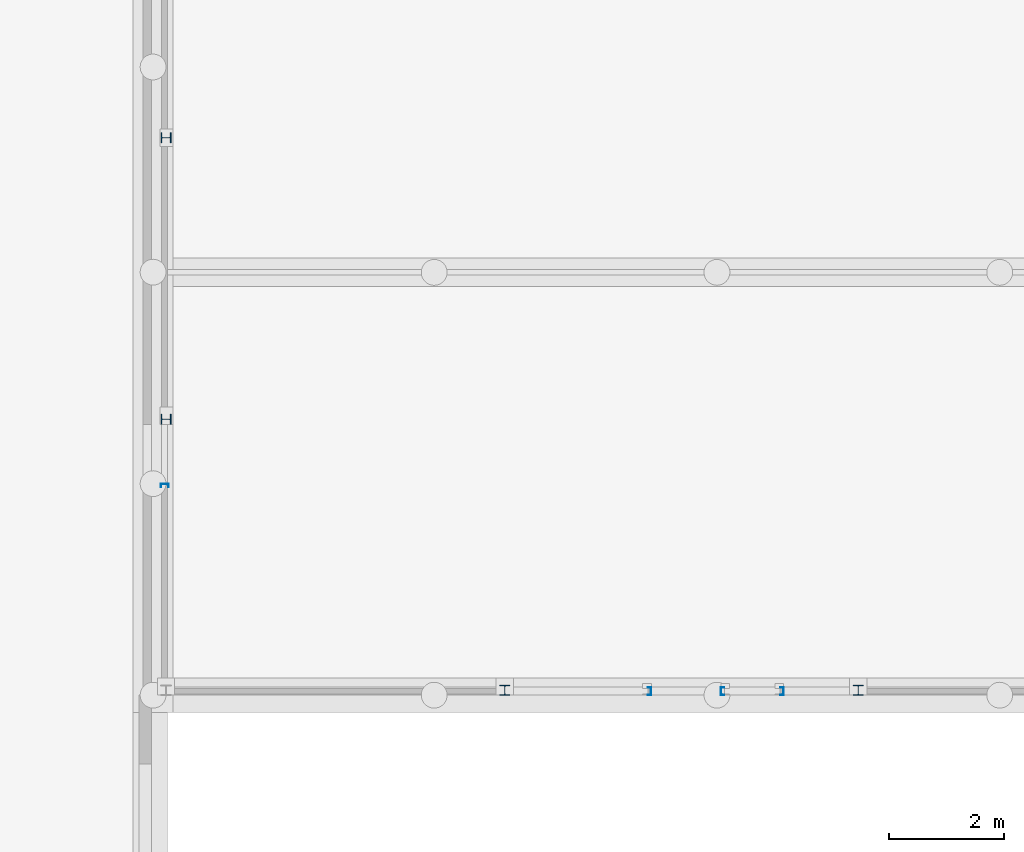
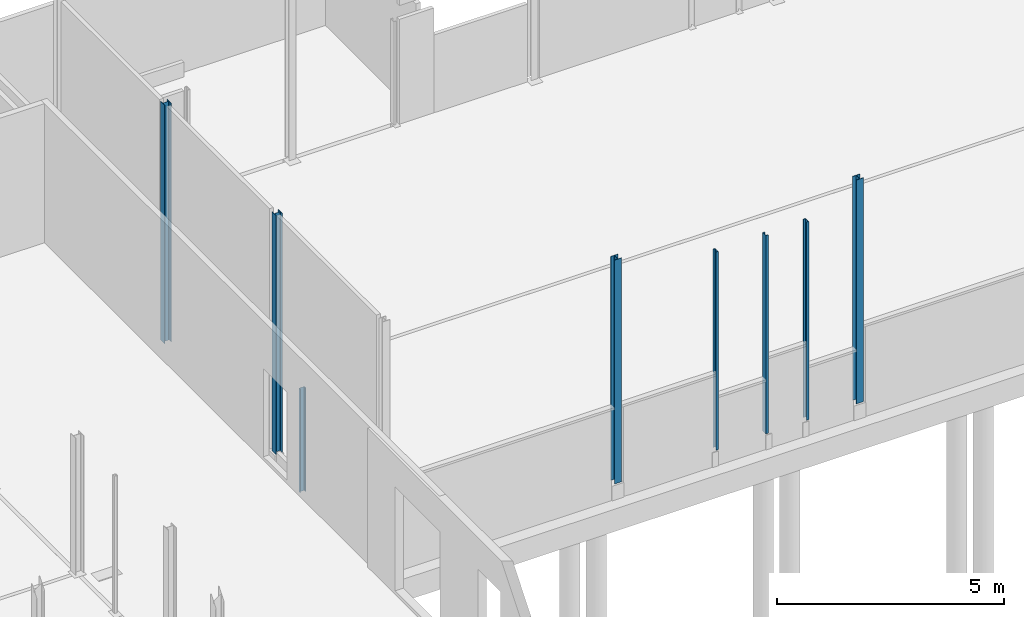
# One storey, part 5 of 18: 8 columns.
"""IFC2X3 building model written with IfcOpenShell, lengths in millimetres."""

from ifc_helpers import new_model, entity, si_unit, converted_unit, derived_unit, direction, frame, frame_2d, origin, place, context, subcontext, project, spatial, polyline, circle_curve, parameter, trimmed, segment, composite_curve, i_section, outline, extrude, source, transform, mapped, material, material_list, type_object, type_shapes, element, save


model = new_model("IFC2X3")

# Units and contexts
model_context = context("Model", 3, precision=0.01, world=origin(), true_north=direction((6.12303176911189e-17, 1.0)))
body_context = subcontext(model_context, "Body", "Model", "MODEL_VIEW")
ifc_project = project(units=[si_unit("LENGTHUNIT", "METRE", prefix="MILLI"), si_unit("AREAUNIT", "SQUARE_METRE"), si_unit("VOLUMEUNIT", "CUBIC_METRE"), converted_unit("PLANEANGLEUNIT", "DEGREE", entity("IfcRatioMeasure", 0.0174532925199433), si_unit("PLANEANGLEUNIT", "RADIAN"), dimensions=[0, 0, 0, 0, 0, 0, 0]), si_unit("MASSUNIT", "GRAM", prefix="KILO"), derived_unit("MASSDENSITYUNIT", [(si_unit("MASSUNIT", "GRAM", prefix="KILO"), 1), (si_unit("LENGTHUNIT", "METRE"), -3)]), derived_unit("MOMENTOFINERTIAUNIT", [(si_unit("LENGTHUNIT", "METRE"), 4)]), si_unit("TIMEUNIT", "SECOND"), si_unit("FREQUENCYUNIT", "HERTZ"), si_unit("THERMODYNAMICTEMPERATUREUNIT", "DEGREE_CELSIUS"), derived_unit("THERMALTRANSMITTANCEUNIT", [(si_unit("MASSUNIT", "GRAM", prefix="KILO"), 1), (si_unit("THERMODYNAMICTEMPERATUREUNIT", "KELVIN"), -1), (si_unit("TIMEUNIT", "SECOND"), -3)]), derived_unit("VOLUMETRICFLOWRATEUNIT", [(si_unit("LENGTHUNIT", "METRE"), 3), (si_unit("TIMEUNIT", "SECOND"), -1)]), si_unit("ELECTRICCURRENTUNIT", "AMPERE"), si_unit("ELECTRICVOLTAGEUNIT", "VOLT"), si_unit("POWERUNIT", "WATT"), si_unit("FORCEUNIT", "NEWTON", prefix="KILO"), si_unit("ILLUMINANCEUNIT", "LUX"), si_unit("LUMINOUSFLUXUNIT", "LUMEN"), si_unit("LUMINOUSINTENSITYUNIT", "CANDELA"), derived_unit("USERDEFINED", [(si_unit("MASSUNIT", "GRAM", prefix="KILO"), -1), (si_unit("LENGTHUNIT", "METRE"), -2), (si_unit("TIMEUNIT", "SECOND"), 3), (si_unit("LUMINOUSFLUXUNIT", "LUMEN"), 1)]), derived_unit("LINEARVELOCITYUNIT", [(si_unit("LENGTHUNIT", "METRE"), 1), (si_unit("TIMEUNIT", "SECOND"), -1)]), si_unit("PRESSUREUNIT", "PASCAL"), derived_unit("USERDEFINED", [(si_unit("LENGTHUNIT", "METRE"), -2), (si_unit("MASSUNIT", "GRAM", prefix="KILO"), 1), (si_unit("TIMEUNIT", "SECOND"), -2)]), derived_unit("LINEARFORCEUNIT", [(si_unit("MASSUNIT", "GRAM", prefix="KILO"), 1), (si_unit("LENGTHUNIT", "METRE"), 1), (si_unit("TIMEUNIT", "SECOND"), -2), (si_unit("LENGTHUNIT", "METRE"), -1)]), derived_unit("PLANARFORCEUNIT", [(si_unit("MASSUNIT", "GRAM", prefix="KILO"), 1), (si_unit("LENGTHUNIT", "METRE"), 1), (si_unit("TIMEUNIT", "SECOND"), -2), (si_unit("LENGTHUNIT", "METRE"), -2)])], contexts=[model_context])

# Site, building, storey
site_placement = place(None, origin())
site = spatial("IfcSite", under=ifc_project, at=site_placement, Name="Default", CompositionType="ELEMENT")
building_placement = place(site_placement, origin())
building = spatial("IfcBuilding", under=site, at=building_placement, CompositionType="ELEMENT")
storey_placement = place(building_placement, frame((0.0, 0.0, -1085.0)))
storey = spatial("IfcBuildingStorey", under=building, at=storey_placement, Name="-00 fundatie", CompositionType="ELEMENT", Elevation=-1085.0)

# Columns
ifc_material_1 = material(Name="h2_staal")
column_type_1 = type_object("IfcColumnType", Name="BERSnl_28_SCO_TLB_kolom hea_gen_ISR:kolom gen hea180", PredefinedType="COLUMN", material=ifc_material_1)
shared_shape_1 = source(origin(), body_context, "Body", "SweptSolid", [
    extrude(outline(composite_curve([segment(polyline([(76.0, -90.0), (85.5, -90.0)]), True, "CONTINUOUS"), segment(polyline([(85.4999999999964, -90.0), (85.4999999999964, 90.0)]), True, "CONTINUOUS"), segment(polyline([(85.4999999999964, 90.0), (76.0, 90.0)]), True, "CONTINUOUS"), segment(polyline([(76.0, 90.0), (76.0, 18.0)]), True, "CONTINUOUS"), segment(trimmed(circle_curve(frame_2d((61.0, 18.0), x_axis=(1.0, 0.0)), 14.9999999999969), [parameter(269.999999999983)], [parameter(0.0)], True, "PARAMETER"), False, "CONTINUOUS"), segment(polyline([(61.0, 3.0), (-61.0, 3.0)]), True, "CONTINUOUS"), segment(trimmed(circle_curve(frame_2d((-61.0, 18.0), x_axis=(0.0, -1.0)), 14.9999999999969), [parameter(269.999999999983)], [parameter(0.0)], True, "PARAMETER"), False, "CONTINUOUS"), segment(polyline([(-76.0, 18.0), (-76.0, 90.0)]), True, "CONTINUOUS"), segment(polyline([(-76.0, 90.0), (-85.5000000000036, 90.0)]), True, "CONTINUOUS"), segment(polyline([(-85.5, 90.0), (-85.5, -90.0)]), True, "CONTINUOUS"), segment(polyline([(-85.5, -90.0), (-76.0, -90.0)]), True, "CONTINUOUS"), segment(polyline([(-76.0, -90.0), (-76.0, -18.0)]), True, "CONTINUOUS"), segment(trimmed(circle_curve(frame_2d((-61.0, -18.0), x_axis=(-1.0, 0.0)), 14.9999999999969), [parameter(269.999999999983)], [parameter(0.0)], True, "PARAMETER"), False, "CONTINUOUS"), segment(polyline([(-61.0, -3.0), (61.0, -3.0)]), True, "CONTINUOUS"), segment(trimmed(circle_curve(frame_2d((61.0, -18.0), x_axis=(0.0, 1.0)), 14.9999999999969), [parameter(269.999999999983)], [parameter(0.0)], True, "PARAMETER"), False, "CONTINUOUS"), segment(polyline([(76.0, -18.0), (76.0, -90.0)]), True, "CONTINUOUS")], self_intersect=False)), frame((47133.4270571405, 21081.7966282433, -50.0), z_axis=(0.0, 0.0, 1.0), x_axis=(0.0, -1.0, 0.0)), (0.0, 0.0, 1.0), 6018.49065909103),
])
type_shapes(column_type_1, [shared_shape_1])
column_1_placement = place(storey_placement, frame((0.0, 0.0, 1085.0)))
element("IfcColumn", 1, at=column_1_placement, inside=storey, type_object=column_type_1, Name="BERSnl_28_SCO_TLB_kolom hea_gen_ISR:kolom gen hea180", ObjectType="BERSnl_28_SCO_TLB_kolom hea_gen_ISR:kolom gen hea180", context=body_context, shape_type="MappedRepresentation", body=[
    mapped(shared_shape_1, transform((0.0, 0.0, 0.0), scale=1.0)),
])
column_type_2 = type_object("IfcColumnType", Name="BERSnl_28_SCO_TLB_kolom hea_gen_ISR:kolom gen hea180", PredefinedType="COLUMN", material=ifc_material_1)
shared_shape_2 = source(origin(), body_context, "Body", "SweptSolid", [
    extrude(outline(composite_curve([segment(polyline([(76.0, -90.0), (85.5000000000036, -90.0)]), True, "CONTINUOUS"), segment(polyline([(85.5, -90.0), (85.5, 90.0)]), True, "CONTINUOUS"), segment(polyline([(85.5, 90.0), (76.0, 90.0)]), True, "CONTINUOUS"), segment(polyline([(76.0, 90.0), (76.0, 18.0)]), True, "CONTINUOUS"), segment(trimmed(circle_curve(frame_2d((61.0, 18.0), x_axis=(1.0, 0.0)), 14.9999999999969), [parameter(269.999999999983)], [parameter(0.0)], True, "PARAMETER"), False, "CONTINUOUS"), segment(polyline([(61.0, 3.0), (-61.0, 3.0)]), True, "CONTINUOUS"), segment(trimmed(circle_curve(frame_2d((-61.0, 18.0), x_axis=(0.0, -1.0)), 14.9999999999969), [parameter(269.999999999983)], [parameter(0.0)], True, "PARAMETER"), False, "CONTINUOUS"), segment(polyline([(-76.0, 18.0), (-76.0, 90.0)]), True, "CONTINUOUS"), segment(polyline([(-76.0, 90.0), (-85.5, 90.0)]), True, "CONTINUOUS"), segment(polyline([(-85.4999999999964, 90.0), (-85.4999999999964, -90.0)]), True, "CONTINUOUS"), segment(polyline([(-85.4999999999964, -90.0), (-76.0, -90.0)]), True, "CONTINUOUS"), segment(polyline([(-76.0, -90.0), (-76.0, -18.0)]), True, "CONTINUOUS"), segment(trimmed(circle_curve(frame_2d((-61.0, -18.0), x_axis=(-1.0, 0.0)), 14.9999999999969), [parameter(269.999999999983)], [parameter(0.0)], True, "PARAMETER"), False, "CONTINUOUS"), segment(polyline([(-61.0, -3.0), (61.0, -3.0)]), True, "CONTINUOUS"), segment(trimmed(circle_curve(frame_2d((61.0, -18.0), x_axis=(0.0, 1.0)), 14.9999999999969), [parameter(269.999999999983)], [parameter(0.0)], True, "PARAMETER"), False, "CONTINUOUS"), segment(polyline([(76.0, -18.0), (76.0, -90.0)]), True, "CONTINUOUS")], self_intersect=False)), frame((40983.4270571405, 21081.7966282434, -50.0), z_axis=(0.0, 0.0, 1.0), x_axis=(0.0, -1.0, 0.0)), (0.0, 0.0, 1.0), 6018.61861103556),
])
type_shapes(column_type_2, [shared_shape_2])
column_2_placement = place(storey_placement, frame((0.0, 0.0, 1085.0)))
element("IfcColumn", 2, at=column_2_placement, inside=storey, type_object=column_type_2, Name="BERSnl_28_SCO_TLB_kolom hea_gen_ISR:kolom gen hea180", ObjectType="BERSnl_28_SCO_TLB_kolom hea_gen_ISR:kolom gen hea180", context=body_context, shape_type="MappedRepresentation", body=[
    mapped(shared_shape_2, transform((0.0, 0.0, 0.0), scale=1.0)),
])
column_type_3 = type_object("IfcColumnType", Name="BERSnl_28_SCO_TLB_kolom hea_gen_ISR:kolom gen hea180", PredefinedType="COLUMN", material=ifc_material_1)
shared_shape_3 = source(origin(), body_context, "Body", "SweptSolid", [
    extrude(i_section(OverallWidth=179.999999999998, OverallDepth=170.999999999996, WebThickness=6.00000000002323, FlangeThickness=9.49999999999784, FilletRadius=15.000000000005, at=frame_2d((0.0, 4.33431068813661e-12), x_axis=(1.0, 0.0))), frame((35089.4270571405, 30696.2966282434, -50.0), z_axis=(0.0, 0.0, 1.0), x_axis=(0.0, -1.0, 0.0)), (0.0, 0.0, 1.0), 6419.99999999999),
])
type_shapes(column_type_3, [shared_shape_3])
column_3_placement = place(storey_placement, frame((0.0, 0.0, 1085.0)))
element("IfcColumn", 3, at=column_3_placement, inside=storey, type_object=column_type_3, Name="BERSnl_28_SCO_TLB_kolom hea_gen_ISR:kolom gen hea180", ObjectType="BERSnl_28_SCO_TLB_kolom hea_gen_ISR:kolom gen hea180", context=body_context, shape_type="MappedRepresentation", body=[
    mapped(shared_shape_3, transform((0.0, 0.0, 0.0), scale=1.0)),
])
column_type_4 = type_object("IfcColumnType", Name="BERSnl_28_SCO_TLB_kolom hea_gen_ISR:kolom gen hea180", PredefinedType="COLUMN", material=ifc_material_1)
shared_shape_4 = source(origin(), body_context, "Body", "SweptSolid", [
    extrude(i_section(OverallWidth=179.999999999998, OverallDepth=170.999999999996, WebThickness=6.00000000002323, FlangeThickness=9.49999999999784, FilletRadius=15.000000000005, at=frame_2d((4.33431068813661e-12, 0.0), x_axis=(1.0, 0.0))), frame((35089.4270571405, 25796.2966282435, -50.0), z_axis=(0.0, 0.0, 1.0), x_axis=(0.0, -1.0, 0.0)), (0.0, 0.0, 1.0), 6419.99999999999),
])
type_shapes(column_type_4, [shared_shape_4])
column_4_placement = place(storey_placement, frame((0.0, 0.0, 1085.0)))
element("IfcColumn", 4, at=column_4_placement, inside=storey, type_object=column_type_4, Name="BERSnl_28_SCO_TLB_kolom hea_gen_ISR:kolom gen hea180", ObjectType="BERSnl_28_SCO_TLB_kolom hea_gen_ISR:kolom gen hea180", context=body_context, shape_type="MappedRepresentation", body=[
    mapped(shared_shape_4, transform((0.0, 0.0, 0.0), scale=1.0)),
])
ifc_material_2 = material(Name="<Unnamed>")
ifc_material_3 = material(Name="00_Staal_generiek")
ifc_material_list_1 = material_list([ifc_material_2, ifc_material_3])
column_type_5 = type_object("IfcColumnType", Name="BERSnl_28_SCO_TLB_kolom unp_gen_ISR:kolom_gen_UNP140", PredefinedType="COLUMN", material=ifc_material_list_1)
shared_shape_5 = source(origin(), body_context, "Body", "SweptSolid", [
    extrude(outline(composite_curve([segment(polyline([(-70.0, -33.1001241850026), (70.0, -33.1001241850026)]), True, "CONTINUOUS"), segment(polyline([(70.0, -33.1001241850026), (70.0, 26.8998758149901)]), True, "CONTINUOUS"), segment(polyline([(70.0, 26.8998758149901), (66.7383127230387, 26.8998758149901)]), True, "CONTINUOUS"), segment(trimmed(circle_curve(frame_2d((66.7383127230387, 21.8998758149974), x_axis=(0.0, 1.0)), 4.99999999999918), [parameter(0.0)], [parameter(85.4200000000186)], True, "PARAMETER"), True, "CONTINUOUS"), segment(polyline([(61.7542786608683, 22.2991307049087), (58.6142721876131, -16.89863396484)]), True, "CONTINUOUS"), segment(trimmed(circle_curve(frame_2d((48.6462040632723, -16.1001241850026), x_axis=(0.996806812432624, -0.0798509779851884)), 9.99999999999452), [parameter(274.579999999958)], [parameter(0.0)], True, "PARAMETER"), False, "CONTINUOUS"), segment(polyline([(48.6462040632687, -26.1001241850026), (-48.6462040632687, -26.1001241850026)]), True, "CONTINUOUS"), segment(trimmed(circle_curve(frame_2d((-48.6462040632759, -16.1001241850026), x_axis=(0.0, -1.0)), 9.99999999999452), [parameter(274.579999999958)], [parameter(0.0)], True, "PARAMETER"), False, "CONTINUOUS"), segment(polyline([(-58.6142721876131, -16.89863396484), (-61.7542786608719, 22.2991307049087)]), True, "CONTINUOUS"), segment(trimmed(circle_curve(frame_2d((-66.7383127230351, 21.8998758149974), x_axis=(0.996806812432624, 0.0798509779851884)), 4.99999999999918), [parameter(0.0)], [parameter(85.4200000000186)], True, "PARAMETER"), True, "CONTINUOUS"), segment(polyline([(-66.7383127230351, 26.8998758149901), (-70.0, 26.8998758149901)]), True, "CONTINUOUS"), segment(polyline([(-70.0, 26.8998758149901), (-70.0, -33.1001241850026)]), True, "CONTINUOUS")], self_intersect=False)), frame((44776.5271813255, 21066.2966282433, -50.0), z_axis=(0.0, 0.0, 1.0), x_axis=(0.0, -1.0, 0.0)), (0.0, 0.0, 1.0), 5331.69999999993),
])
type_shapes(column_type_5, [shared_shape_5])
column_5_placement = place(storey_placement, frame((0.0, 0.0, 1085.0)))
element("IfcColumn", 5, at=column_5_placement, inside=storey, type_object=column_type_5, Name="BERSnl_28_SCO_TLB_kolom unp_gen_ISR:kolom_gen_UNP140", ObjectType="BERSnl_28_SCO_TLB_kolom unp_gen_ISR:kolom_gen_UNP140", context=body_context, shape_type="MappedRepresentation", body=[
    mapped(shared_shape_5, transform((0.0, 0.0, 0.0), scale=1.0)),
])
ifc_material_list_2 = material_list([ifc_material_2, ifc_material_3])
column_type_6 = type_object("IfcColumnType", Name="BERSnl_28_SCO_TLB_kolom unp_gen_ISR:kolom_gen_UNP140", PredefinedType="COLUMN", material=ifc_material_list_2)
shared_shape_6 = source(origin(), body_context, "Body", "SweptSolid", [
    extrude(outline(composite_curve([segment(polyline([(-70.0, -26.8998758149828), (-66.7383127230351, -26.8998758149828)]), True, "CONTINUOUS"), segment(trimmed(circle_curve(frame_2d((-66.7383127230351, -21.8998758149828), x_axis=(0.0, -1.0)), 4.99999999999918), [parameter(0.0)], [parameter(85.4200000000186)], True, "PARAMETER"), True, "CONTINUOUS"), segment(polyline([(-61.7542786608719, -22.2991307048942), (-58.6142721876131, 16.8986339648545)]), True, "CONTINUOUS"), segment(trimmed(circle_curve(frame_2d((-48.6462040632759, 16.1001241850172), x_axis=(-0.996806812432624, 0.0798509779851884)), 9.99999999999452), [parameter(274.579999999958)], [parameter(0.0)], True, "PARAMETER"), False, "CONTINUOUS"), segment(polyline([(-48.6462040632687, 26.1001241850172), (48.6462040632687, 26.1001241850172)]), True, "CONTINUOUS"), segment(trimmed(circle_curve(frame_2d((48.6462040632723, 16.1001241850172), x_axis=(0.0, 1.0)), 9.99999999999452), [parameter(274.579999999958)], [parameter(0.0)], True, "PARAMETER"), False, "CONTINUOUS"), segment(polyline([(58.6142721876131, 16.8986339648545), (61.7542786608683, -22.2991307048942)]), True, "CONTINUOUS"), segment(trimmed(circle_curve(frame_2d((66.7383127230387, -21.8998758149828), x_axis=(-0.996806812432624, -0.0798509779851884)), 4.99999999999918), [parameter(0.0)], [parameter(85.4200000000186)], True, "PARAMETER"), True, "CONTINUOUS"), segment(polyline([(66.7383127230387, -26.8998758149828), (70.0, -26.8998758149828)]), True, "CONTINUOUS"), segment(polyline([(70.0, -26.8998758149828), (70.0, 33.1001241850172)]), True, "CONTINUOUS"), segment(polyline([(70.0, 33.1001241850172), (-70.0, 33.1001241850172)]), True, "CONTINUOUS"), segment(polyline([(-70.0, 33.1001241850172), (-70.0, -26.8998758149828)]), True, "CONTINUOUS")], self_intersect=False)), frame((45800.3269329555, 21066.2966282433, -50.0), z_axis=(0.0, 0.0, 1.0), x_axis=(0.0, -1.0, 0.0)), (0.0, 0.0, 1.0), 5331.69999999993),
])
type_shapes(column_type_6, [shared_shape_6])
column_6_placement = place(storey_placement, frame((0.0, 0.0, 1085.0)))
element("IfcColumn", 6, at=column_6_placement, inside=storey, type_object=column_type_6, Name="BERSnl_28_SCO_TLB_kolom unp_gen_ISR:kolom_gen_UNP140", ObjectType="BERSnl_28_SCO_TLB_kolom unp_gen_ISR:kolom_gen_UNP140", context=body_context, shape_type="MappedRepresentation", body=[
    mapped(shared_shape_6, transform((0.0, 0.0, 0.0), scale=1.0)),
])
ifc_material_list_3 = material_list([ifc_material_2, ifc_material_3])
column_type_7 = type_object("IfcColumnType", Name="BERSnl_28_SCO_TLB_kolom unp_gen_ISR:kolom_gen_UNP140", PredefinedType="COLUMN", material=ifc_material_list_3)
shared_shape_7 = source(origin(), body_context, "Body", "SweptSolid", [
    extrude(outline(composite_curve([segment(polyline([(-70.0, -26.8998758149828), (-66.7383127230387, -26.8998758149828)]), True, "CONTINUOUS"), segment(trimmed(circle_curve(frame_2d((-66.7383127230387, -21.8998758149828), x_axis=(0.0, -1.0)), 4.99999999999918), [parameter(0.0)], [parameter(85.4200000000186)], True, "PARAMETER"), True, "CONTINUOUS"), segment(polyline([(-61.7542786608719, -22.2991307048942), (-58.6142721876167, 16.8986339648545)]), True, "CONTINUOUS"), segment(trimmed(circle_curve(frame_2d((-48.6462040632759, 16.1001241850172), x_axis=(-0.996806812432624, 0.0798509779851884)), 9.99999999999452), [parameter(274.579999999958)], [parameter(0.0)], True, "PARAMETER"), False, "CONTINUOUS"), segment(polyline([(-48.6462040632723, 26.1001241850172), (48.6462040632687, 26.1001241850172)]), True, "CONTINUOUS"), segment(trimmed(circle_curve(frame_2d((48.6462040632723, 16.1001241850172), x_axis=(0.0, 1.0)), 9.99999999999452), [parameter(274.579999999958)], [parameter(0.0)], True, "PARAMETER"), False, "CONTINUOUS"), segment(polyline([(58.6142721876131, 16.8986339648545), (61.7542786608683, -22.2991307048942)]), True, "CONTINUOUS"), segment(trimmed(circle_curve(frame_2d((66.7383127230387, -21.8998758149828), x_axis=(-0.996806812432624, -0.0798509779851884)), 4.99999999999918), [parameter(0.0)], [parameter(85.4200000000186)], True, "PARAMETER"), True, "CONTINUOUS"), segment(polyline([(66.7383127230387, -26.8998758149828), (70.0, -26.8998758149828)]), True, "CONTINUOUS"), segment(polyline([(70.0, -26.8998758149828), (70.0, 33.1001241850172)]), True, "CONTINUOUS"), segment(polyline([(70.0, 33.1001241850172), (-70.0, 33.1001241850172)]), True, "CONTINUOUS"), segment(polyline([(-70.0, 33.1001241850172), (-70.0, -26.8998758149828)]), True, "CONTINUOUS")], self_intersect=False)), frame((43500.3269329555, 21066.2966282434, -50.0), z_axis=(0.0, 0.0, 1.0), x_axis=(0.0, -1.0, 0.0)), (0.0, 0.0, 1.0), 5331.69999999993),
])
type_shapes(column_type_7, [shared_shape_7])
column_7_placement = place(storey_placement, frame((0.0, 0.0, 1085.0)))
element("IfcColumn", 7, at=column_7_placement, inside=storey, type_object=column_type_7, Name="BERSnl_28_SCO_TLB_kolom unp_gen_ISR:kolom_gen_UNP140", ObjectType="BERSnl_28_SCO_TLB_kolom unp_gen_ISR:kolom_gen_UNP140", context=body_context, shape_type="MappedRepresentation", body=[
    mapped(shared_shape_7, transform((0.0, 0.0, 0.0), scale=1.0)),
])
ifc_material_list_4 = material_list([ifc_material_2, ifc_material_3])
column_type_8 = type_object("IfcColumnType", Name="BERSnl_28_SCO_TLB_kolom unp_gen_ISR:kolom_gen_UNP140", PredefinedType="COLUMN", material=ifc_material_list_4)
shared_shape_8 = source(origin(), body_context, "Body", "SweptSolid", [
    extrude(outline(composite_curve([segment(polyline([(-33.1001241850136, -70.0), (26.8998758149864, -70.0)]), True, "CONTINUOUS"), segment(polyline([(26.8998758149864, -70.0), (26.8998758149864, -66.7383127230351)]), True, "CONTINUOUS"), segment(trimmed(circle_curve(frame_2d((21.8998758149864, -66.7383127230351), x_axis=(1.0, 0.0)), 4.99999999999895), [parameter(0.0)], [parameter(85.4200000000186)], True, "PARAMETER"), True, "CONTINUOUS"), segment(polyline([(22.2991307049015, -61.7542786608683), (-16.8986339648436, -58.6142721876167)]), True, "CONTINUOUS"), segment(trimmed(circle_curve(frame_2d((-16.1001241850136, -48.6462040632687), x_axis=(-0.0798509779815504, -0.996806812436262)), 10.0000000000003), [parameter(274.580000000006)], [parameter(0.0)], True, "PARAMETER"), False, "CONTINUOUS"), segment(polyline([(-26.1001241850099, -48.6462040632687), (-26.1001241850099, 48.6462040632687)]), True, "CONTINUOUS"), segment(trimmed(circle_curve(frame_2d((-16.1001241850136, 48.6462040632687), x_axis=(-1.0, 0.0)), 10.0000000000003), [parameter(274.580000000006)], [parameter(0.0)], True, "PARAMETER"), False, "CONTINUOUS"), segment(polyline([(-16.8986339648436, 58.6142721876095), (22.2991307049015, 61.7542786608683)]), True, "CONTINUOUS"), segment(trimmed(circle_curve(frame_2d((21.8998758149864, 66.7383127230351), x_axis=(0.0798509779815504, -0.996806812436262)), 4.99999999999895), [parameter(0.0)], [parameter(85.4200000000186)], True, "PARAMETER"), True, "CONTINUOUS"), segment(polyline([(26.8998758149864, 66.7383127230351), (26.8998758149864, 70.0)]), True, "CONTINUOUS"), segment(polyline([(26.8998758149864, 70.0), (-33.1001241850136, 70.0)]), True, "CONTINUOUS"), segment(polyline([(-33.1001241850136, 70.0), (-33.1001241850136, -70.0)]), True, "CONTINUOUS")], self_intersect=False)), frame((35063.4270571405, 24639.1965040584, -425.0), z_axis=(0.0, 0.0, 1.0), x_axis=(0.0, -1.0, 0.0)), (0.0, 0.0, 1.0), 2792.0),
])
type_shapes(column_type_8, [shared_shape_8])
column_8_placement = place(storey_placement, frame((0.0, 0.0, 1085.0)))
element("IfcColumn", 8, at=column_8_placement, inside=storey, type_object=column_type_8, Name="BERSnl_28_SCO_TLB_kolom unp_gen_ISR:kolom_gen_UNP140", ObjectType="BERSnl_28_SCO_TLB_kolom unp_gen_ISR:kolom_gen_UNP140", context=body_context, shape_type="MappedRepresentation", body=[
    mapped(shared_shape_8, transform((0.0, 0.0, 0.0), scale=1.0)),
])

save(model, "model.ifc")
